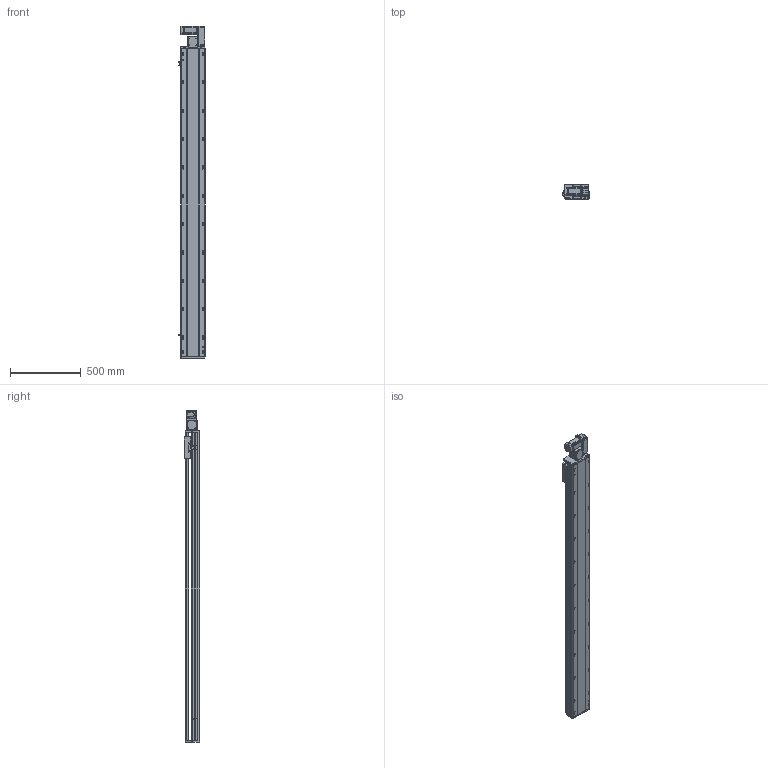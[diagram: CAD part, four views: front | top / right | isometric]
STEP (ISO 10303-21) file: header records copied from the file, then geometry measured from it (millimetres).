
FILE_DESCRIPTION (( 'STEP AP214' ), '1' );
FILE_NAME ('RTB17S-XX-1900-R-M40-C4.STEP', '2025-12-11T07:43:17', ( '' ), ( '' ), 'SwSTEP 2.0', 'SolidWorks 2018', '' );
FILE_SCHEMA (( 'AUTOMOTIVE_DESIGN' ));
Length unit declared in the file: millimetre
Products named in the file (14): RTB17S-L-007奻裔^RTB17S-XX-XX-R-M40-C4; RTB14-L-008-M20--萇儂啣^RTB17S-R-々湍釱蚾饜-400W_RTB17S-XX-XX-R-M40-C4; RTB14-L-005P--轴承塑胶压盖^RTB17S-R-皮带座装配-400W_RTB17S-XX-XX-R-M40-C4; RTB17S-L-014-T20--々湍釱^RTB17S-R-々湍釱蚾饜-400W_RTB17S-XX-XX-R-M40-C4; RTB17S-XX-1900-R-M40-C4; RTH13-BL-012覜茼え俋离^RTB17S-XX-XX-R-M40-C4; OMRON EE-SX672 传感器^RTB17S-XX-XX-R-M40-C4; RTB17S-R-々湍釱蚾饜-400W^RTB17S-XX-XX-R-M40-C4; RTB17S-L-004佪裝蹟譫蟀諉釱^RTB17S-XX-XX-R-M40-C4; RTB14-L-017P^RTB17S-R-々湍釱蚾饜-400W_RTB17S-XX-XX-R-M40-C4; 400W侜督萇儂^RTB17S-XX-XX-R-M40-C4; RTB17-R-011菁釱^RTB17S-XX-XX-R-M40-C4; RTB17S-L-001耜醱啣^RTB17S-XX-XX-R-M40-C4; RTB14-L-018P^RTB17S-R-々湍釱蚾饜-400W_RTB17S-XX-XX-R-M40-C4
Assembly tree (16 placements, depth 3):
  RTB17S-XX-1900-R-M40-C4
    RTB17-R-011菁釱^RTB17S-XX-XX-R-M40-C4
    RTB17S-L-007奻裔^RTB17S-XX-XX-R-M40-C4
    OMRON EE-SX672 传感器^RTB17S-XX-XX-R-M40-C4  x3
    RTB17S-L-001耜醱啣^RTB17S-XX-XX-R-M40-C4
    400W侜督萇儂^RTB17S-XX-XX-R-M40-C4
    RTB17S-L-004佪裝蹟譫蟀諉釱^RTB17S-XX-XX-R-M40-C4
    RTH13-BL-012覜茼え俋离^RTB17S-XX-XX-R-M40-C4
    RTB17S-R-々湍釱蚾饜-400W^RTB17S-XX-XX-R-M40-C4
      RTB17S-L-014-T20--々湍釱^RTB17S-R-々湍釱蚾饜-400W_RTB17S-XX-XX-R-M40-C4
      RTB14-L-005P--轴承塑胶压盖^RTB17S-R-皮带座装配-400W_RTB17S-XX-XX-R-M40-C4
      RTB14-L-008-M20--萇儂啣^RTB17S-R-々湍釱蚾饜-400W_RTB17S-XX-XX-R-M40-C4
      RTB14-L-017P^RTB17S-R-々湍釱蚾饜-400W_RTB17S-XX-XX-R-M40-C4  x2
      RTB14-L-018P^RTB17S-R-々湍釱蚾饜-400W_RTB17S-XX-XX-R-M40-C4
Bounding box: 183.5 x 108 x 2341 mm (x, y, z)
Volume: 19711159.2 mm3; surface area: 2299326.4 mm2
Topology: 15 solids, 15 shells, 2285 faces, 6357 edges, 4149 vertices
Faces by surface type: plane 1078, cylinder 759, bspline 301, cone 139, torus 8
Entity records: 66473 total; most frequent: CARTESIAN_POINT 18762, ORIENTED_EDGE 9558, DIRECTION 8846, EDGE_CURVE 4779, VERTEX_POINT 3137, AXIS2_PLACEMENT_3D 3067, VECTOR 2712, LINE 2712
